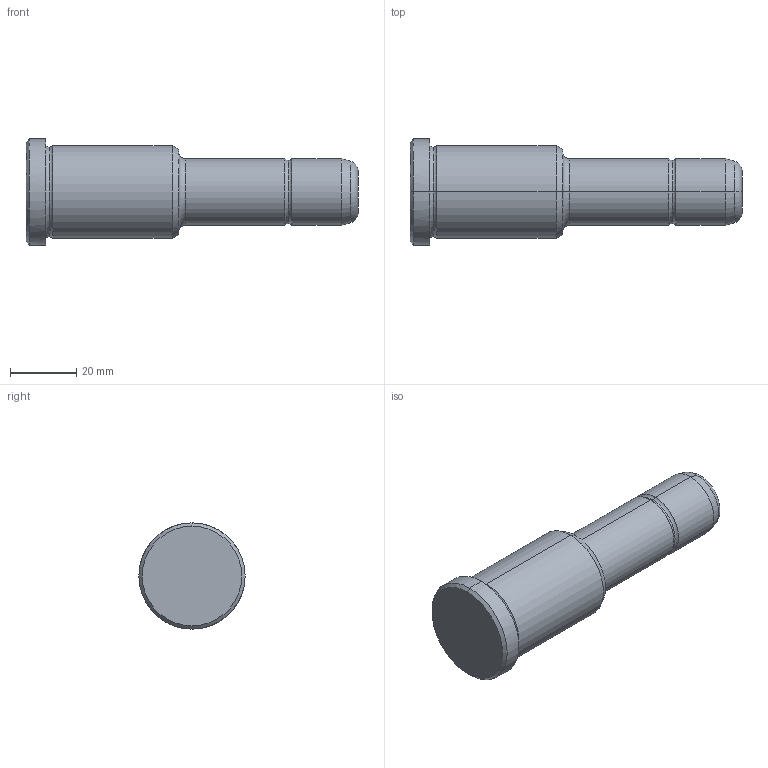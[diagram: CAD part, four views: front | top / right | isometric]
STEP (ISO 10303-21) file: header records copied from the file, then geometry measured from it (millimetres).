
FILE_DESCRIPTION(('CATIA V5 STEP Exchange'),'2;1');
FILE_NAME('C:\Users\Utente\Desktop\IO LAVORO\3D X SITO CF\X SITO\PLASTICA\351\351-20X46X100.stp','2021-08-27T12:57:13+00:00',('none'),('none'),'CATIA Version 5 Release 20 GA (IN-10)','CATIA V5 STEP AP203','none');
FILE_SCHEMA(('CONFIG_CONTROL_DESIGN'));
Length unit declared in the file: millimetre
Products named in the file (1): 351-20X46X100
Bounding box: 100 x 32 x 32 mm (x, y, z)
Volume: 45971 mm3; surface area: 8842.1 mm2
Topology: 1 solids, 1 shells, 30 faces, 86 edges, 60 vertices
Faces by surface type: torus 12, cylinder 8, cone 6, plane 4
Entity records: 1112 total; most frequent: CARTESIAN_POINT 289, ORIENTED_EDGE 172, DIRECTION 138, AXIS2_PLACEMENT_3D 95, EDGE_CURVE 86, CIRCLE 64, VERTEX_POINT 60, EDGE_LOOP 32
